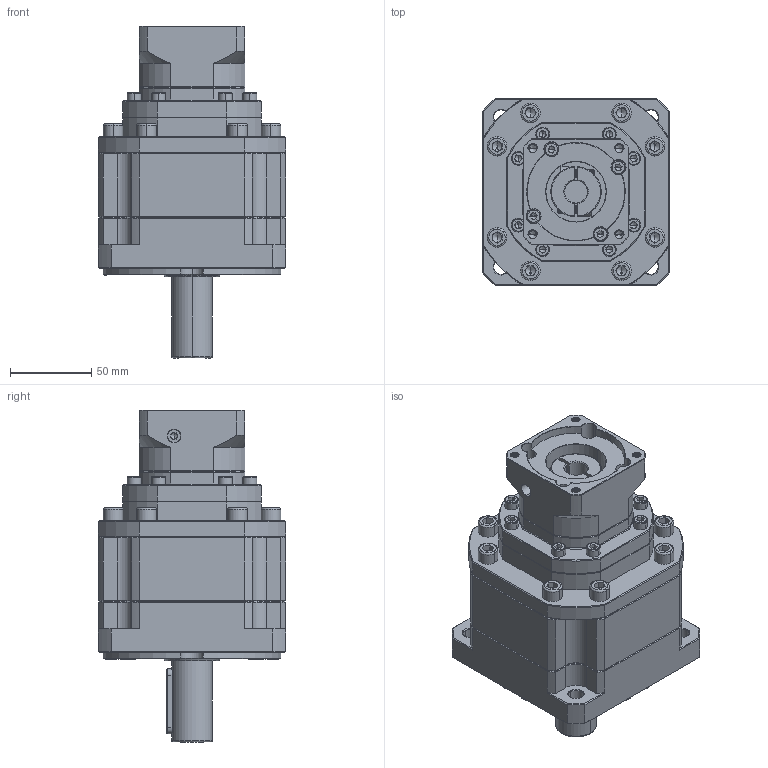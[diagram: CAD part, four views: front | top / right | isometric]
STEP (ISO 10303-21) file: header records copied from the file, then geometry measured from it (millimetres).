
FILE_DESCRIPTION (( 'STEP AP214' ), '1' );
FILE_NAME ('ZB115A-D25-L3-14-60-75-M6.step', '2023-03-03T09:53:16', ( '' ), ( 'Microsoft' ), 'SwSTEP 2.0', 'SolidWorks 2016', '' );
FILE_SCHEMA (( 'AUTOMOTIVE_DESIGN' ));
Length unit declared in the file: millimetre
Products named in the file (1): ZB115A-D25-L3-14-60-75-M6
Bounding box: 115 x 115 x 204 mm (x, y, z)
Volume: 1289667.7 mm3; surface area: 122180.8 mm2
Topology: 7 solids, 7 shells, 2285 faces, 5939 edges, 3759 vertices
Faces by surface type: plane 1126, cylinder 445, cone 347, bspline 345, torus 22
Entity records: 116961 total; most frequent: CARTESIAN_POINT 38713, ORIENTED_EDGE 11754, DIRECTION 9852, EDGE_CURVE 5877, VERTEX_POINT 3759, LINE 3668, VECTOR 3668, AXIS2_PLACEMENT_3D 3092
